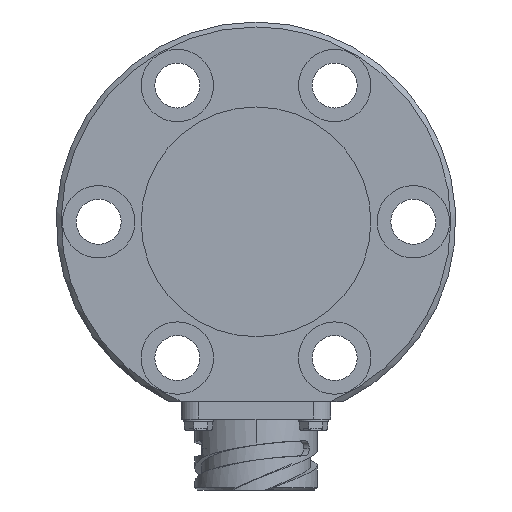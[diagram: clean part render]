
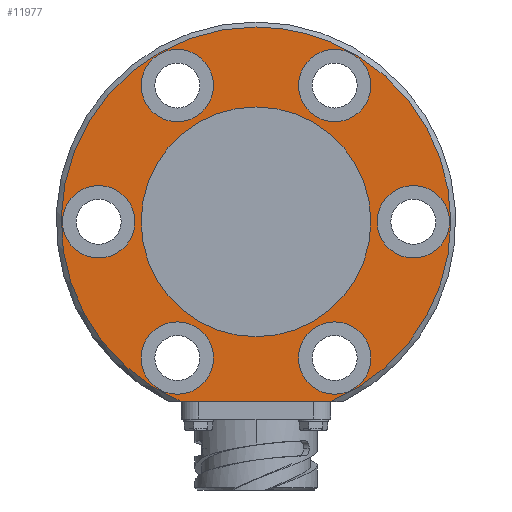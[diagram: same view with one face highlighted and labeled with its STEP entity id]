
A CAD part, left-side view. The second image highlights one B-rep face of the part: STEP entity #11977.
In plain terms, the highlighted planar face has unit normal (-1, 0, 0).
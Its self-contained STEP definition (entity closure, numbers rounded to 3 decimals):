
#4138=CARTESIAN_POINT('',(0.,-15.,
-36.));
#4180=CARTESIAN_POINT('',(0.,15.,
-36.));
#5148=DIRECTION('',(0.,1.,0.));
#5149=VECTOR('',#5148,30.);
#5150=CARTESIAN_POINT('',(0.,-15.,
-36.));
#5151=LINE('',#5150,#5149);
#5155=CARTESIAN_POINT('',(0.,0.,
0.));
#5156=DIRECTION('',(1.,0.,0.));
#5157=DIRECTION('',(0.,0.385,-0.923));
#5158=AXIS2_PLACEMENT_3D('',#5155,#5156,#5157);
#5163=CARTESIAN_POINT('',(0.,0.,
0.));
#5164=DIRECTION('',(1.,0.,0.));
#5165=DIRECTION('',(0.,0.,1.));
#5166=AXIS2_PLACEMENT_3D('',#5163,#5164,#5165);
#5171=CARTESIAN_POINT('',(0.,0.,
0.));
#5172=DIRECTION('',(1.,0.,0.));
#5173=DIRECTION('',(0.,-0.385,0.923));
#5174=AXIS2_PLACEMENT_3D('',#5171,#5172,#5173);
#5179=CARTESIAN_POINT('',(0.,0.,0.));
#5180=DIRECTION('',(-1.,0.,0.));
#5181=DIRECTION('',(0.,-1.,0.));
#5182=AXIS2_PLACEMENT_3D('',#5179,#5180,#5181);
#5187=CARTESIAN_POINT('',(0.,0.,0.));
#5188=DIRECTION('',(-1.,0.,0.));
#5189=DIRECTION('',(0.,1.,0.));
#5190=AXIS2_PLACEMENT_3D('',#5187,#5188,#5189);
#5195=CARTESIAN_POINT('',(0.,-15.75,27.28));
#5196=DIRECTION('',(-1.,0.,0.));
#5197=DIRECTION('',(0.,1.,0.));
#5198=AXIS2_PLACEMENT_3D('',#5195,#5196,#5197);
#5203=CARTESIAN_POINT('',(0.,-15.75,27.28));
#5204=DIRECTION('',(-1.,0.,0.));
#5205=DIRECTION('',(0.,-1.,0.));
#5206=AXIS2_PLACEMENT_3D('',#5203,#5204,#5205);
#5211=CARTESIAN_POINT('',(0.,15.75,27.28));
#5212=DIRECTION('',(-1.,0.,0.));
#5213=DIRECTION('',(0.,0.5,-0.866));
#5214=AXIS2_PLACEMENT_3D('',#5211,#5212,#5213);
#5219=CARTESIAN_POINT('',(0.,15.75,27.28));
#5220=DIRECTION('',(-1.,0.,0.));
#5221=DIRECTION('',(0.,-0.5,0.866));
#5222=AXIS2_PLACEMENT_3D('',#5219,#5220,#5221);
#5227=CARTESIAN_POINT('',(0.,31.5,0.));
#5228=DIRECTION('',(-1.,0.,0.));
#5229=DIRECTION('',(0.,-0.5,-0.866));
#5230=AXIS2_PLACEMENT_3D('',#5227,#5228,#5229);
#5235=CARTESIAN_POINT('',(0.,31.5,0.));
#5236=DIRECTION('',(-1.,0.,0.));
#5237=DIRECTION('',(0.,0.5,0.866));
#5238=AXIS2_PLACEMENT_3D('',#5235,#5236,#5237);
#5243=CARTESIAN_POINT('',(0.,15.75,-27.28));
#5244=DIRECTION('',(-1.,0.,0.));
#5245=DIRECTION('',(0.,-1.,0.));
#5246=AXIS2_PLACEMENT_3D('',#5243,#5244,#5245);
#5251=CARTESIAN_POINT('',(0.,15.75,-27.28));
#5252=DIRECTION('',(-1.,0.,0.));
#5253=DIRECTION('',(0.,1.,0.));
#5254=AXIS2_PLACEMENT_3D('',#5251,#5252,#5253);
#5259=CARTESIAN_POINT('',(0.,-15.75,-27.28));
#5260=DIRECTION('',(-1.,0.,0.));
#5261=DIRECTION('',(0.,-0.5,0.866));
#5262=AXIS2_PLACEMENT_3D('',#5259,#5260,#5261);
#5267=CARTESIAN_POINT('',(0.,-15.75,-27.28));
#5268=DIRECTION('',(-1.,0.,0.));
#5269=DIRECTION('',(0.,0.5,-0.866));
#5270=AXIS2_PLACEMENT_3D('',#5267,#5268,#5269);
#5275=CARTESIAN_POINT('',(0.,-31.5,0.));
#5276=DIRECTION('',(-1.,0.,0.));
#5277=DIRECTION('',(0.,0.5,0.866));
#5278=AXIS2_PLACEMENT_3D('',#5275,#5276,#5277);
#5283=CARTESIAN_POINT('',(0.,-31.5,0.));
#5284=DIRECTION('',(-1.,0.,0.));
#5285=DIRECTION('',(0.,-0.5,-0.866));
#5286=AXIS2_PLACEMENT_3D('',#5283,#5284,#5285);
#9380=VERTEX_POINT('',#4138);
#9390=VERTEX_POINT('',#4180);
#9393=CARTESIAN_POINT('',(0.,0.,
39.));
#9394=VERTEX_POINT('',#9393);
#9395=CARTESIAN_POINT('',(0.,-15.,
36.));
#9396=VERTEX_POINT('',#9395);
#9555=CARTESIAN_POINT('',(0.,-8.5,27.28));
#9556=CARTESIAN_POINT('',(0.,-23.,27.28));
#9557=VERTEX_POINT('',#9555);
#9558=VERTEX_POINT('',#9556);
#9559=CARTESIAN_POINT('',(0.,-23.,0.));
#9560=CARTESIAN_POINT('',(0.,23.,0.));
#9561=VERTEX_POINT('',#9559);
#9562=VERTEX_POINT('',#9560);
#9563=CARTESIAN_POINT('',(0.,19.375,21.001));
#9564=CARTESIAN_POINT('',(0.,12.125,33.558));
#9565=VERTEX_POINT('',#9563);
#9566=VERTEX_POINT('',#9564);
#9567=CARTESIAN_POINT('',(0.,27.875,-6.279));
#9568=CARTESIAN_POINT('',(0.,35.125,6.279));
#9569=VERTEX_POINT('',#9567);
#9570=VERTEX_POINT('',#9568);
#9571=CARTESIAN_POINT('',(0.,8.5,-27.28));
#9572=CARTESIAN_POINT('',(0.,23.,-27.28));
#9573=VERTEX_POINT('',#9571);
#9574=VERTEX_POINT('',#9572);
#9575=CARTESIAN_POINT('',(0.,-19.375,-21.001));
#9576=CARTESIAN_POINT('',(0.,-12.125,-33.558));
#9577=VERTEX_POINT('',#9575);
#9578=VERTEX_POINT('',#9576);
#9579=CARTESIAN_POINT('',(0.,-27.875,6.279));
#9580=CARTESIAN_POINT('',(0.,-35.125,-6.279));
#9581=VERTEX_POINT('',#9579);
#9582=VERTEX_POINT('',#9580);
#11925=CARTESIAN_POINT('',(0.,0.,0.));
#11926=DIRECTION('',(-1.,0.,0.));
#11927=DIRECTION('',(0.,0.,-1.));
#11928=AXIS2_PLACEMENT_3D('',#11925,#11926,#11927);
#11929=PLANE('',#11928);
#11930=ORIENTED_EDGE('',*,*,#11198,.T.);
#11931=ORIENTED_EDGE('',*,*,#11227,.T.);
#11932=ORIENTED_EDGE('',*,*,#11225,.T.);
#11933=ORIENTED_EDGE('',*,*,#11223,.T.);
#11934=EDGE_LOOP('',(#11930,#11931,#11932,#11933));
#11935=FACE_OUTER_BOUND('',#11934,.F.);
#11937=ORIENTED_EDGE('',*,*,#11936,.T.);
#11939=ORIENTED_EDGE('',*,*,#11938,.T.);
#11940=EDGE_LOOP('',(#11937,#11939));
#11941=FACE_BOUND('',#11940,.F.);
#11942=ORIENTED_EDGE('',*,*,#11915,.T.);
#11944=ORIENTED_EDGE('',*,*,#11943,.T.);
#11945=EDGE_LOOP('',(#11942,#11944));
#11946=FACE_BOUND('',#11945,.F.);
#11948=ORIENTED_EDGE('',*,*,#11947,.T.);
#11950=ORIENTED_EDGE('',*,*,#11949,.T.);
#11951=EDGE_LOOP('',(#11948,#11950));
#11952=FACE_BOUND('',#11951,.F.);
#11954=ORIENTED_EDGE('',*,*,#11953,.T.);
#11956=ORIENTED_EDGE('',*,*,#11955,.T.);
#11957=EDGE_LOOP('',(#11954,#11956));
#11958=FACE_BOUND('',#11957,.F.);
#11960=ORIENTED_EDGE('',*,*,#11959,.T.);
#11962=ORIENTED_EDGE('',*,*,#11961,.T.);
#11963=EDGE_LOOP('',(#11960,#11962));
#11964=FACE_BOUND('',#11963,.F.);
#11966=ORIENTED_EDGE('',*,*,#11965,.T.);
#11968=ORIENTED_EDGE('',*,*,#11967,.T.);
#11969=EDGE_LOOP('',(#11966,#11968));
#11970=FACE_BOUND('',#11969,.F.);
#11972=ORIENTED_EDGE('',*,*,#11971,.T.);
#11974=ORIENTED_EDGE('',*,*,#11973,.T.);
#11975=EDGE_LOOP('',(#11972,#11974));
#11976=FACE_BOUND('',#11975,.F.);
#5159=CIRCLE('',#5158,39.);
#5167=CIRCLE('',#5166,39.);
#5175=CIRCLE('',#5174,39.);
#5183=CIRCLE('',#5182,23.);
#5191=CIRCLE('',#5190,23.);
#5199=CIRCLE('',#5198,7.25);
#5207=CIRCLE('',#5206,7.25);
#5215=CIRCLE('',#5214,7.25);
#5223=CIRCLE('',#5222,7.25);
#5231=CIRCLE('',#5230,7.25);
#5239=CIRCLE('',#5238,7.25);
#5247=CIRCLE('',#5246,7.25);
#5255=CIRCLE('',#5254,7.25);
#5263=CIRCLE('',#5262,7.25);
#5271=CIRCLE('',#5270,7.25);
#5279=CIRCLE('',#5278,7.25);
#5287=CIRCLE('',#5286,7.25);
#11198=EDGE_CURVE('',#9380,#9390,#5151,.T.);
#11223=EDGE_CURVE('',#9396,#9380,#5175,.T.);
#11225=EDGE_CURVE('',#9394,#9396,#5167,.T.);
#11227=EDGE_CURVE('',#9390,#9394,#5159,.T.);
#11915=EDGE_CURVE('',#9557,#9558,#5199,.T.);
#11936=EDGE_CURVE('',#9561,#9562,#5183,.T.);
#11938=EDGE_CURVE('',#9562,#9561,#5191,.T.);
#11943=EDGE_CURVE('',#9558,#9557,#5207,.T.);
#11947=EDGE_CURVE('',#9565,#9566,#5215,.T.);
#11949=EDGE_CURVE('',#9566,#9565,#5223,.T.);
#11953=EDGE_CURVE('',#9569,#9570,#5231,.T.);
#11955=EDGE_CURVE('',#9570,#9569,#5239,.T.);
#11959=EDGE_CURVE('',#9573,#9574,#5247,.T.);
#11961=EDGE_CURVE('',#9574,#9573,#5255,.T.);
#11965=EDGE_CURVE('',#9577,#9578,#5263,.T.);
#11967=EDGE_CURVE('',#9578,#9577,#5271,.T.);
#11971=EDGE_CURVE('',#9581,#9582,#5279,.T.);
#11973=EDGE_CURVE('',#9582,#9581,#5287,.T.);
#11977=ADVANCED_FACE('',(#11935,#11941,#11946,#11952,#11958,#11964,#11970,
#11976),#11929,.T.);
